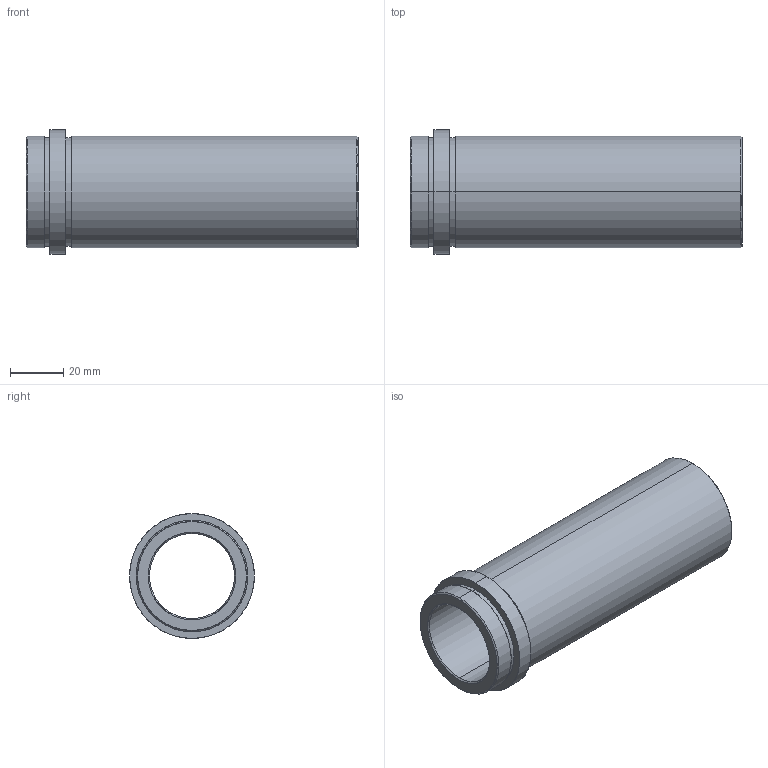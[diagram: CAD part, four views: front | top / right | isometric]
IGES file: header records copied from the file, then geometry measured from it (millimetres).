
Start section: SolidWorks IGES FILE using analytic representation for surfaces
Global section: file name: D:\zzzzz\Delta\D21\32\D21 - 32x116.IGS; native system: SolidWorks 2004 by SolidWorks Corporation; preprocessor: Version 5.3; author: Hkn; date: 080326.193234; units: millimetre
Bounding box: 125 x 47 x 47 mm (x, y, z)
Surface area: 31127.4 mm2 (no closed solid volume)
Topology: 0 solids, 0 shells, 26 faces, 848 edges, 848 vertices
Faces by surface type: revolution 20, bspline 6
